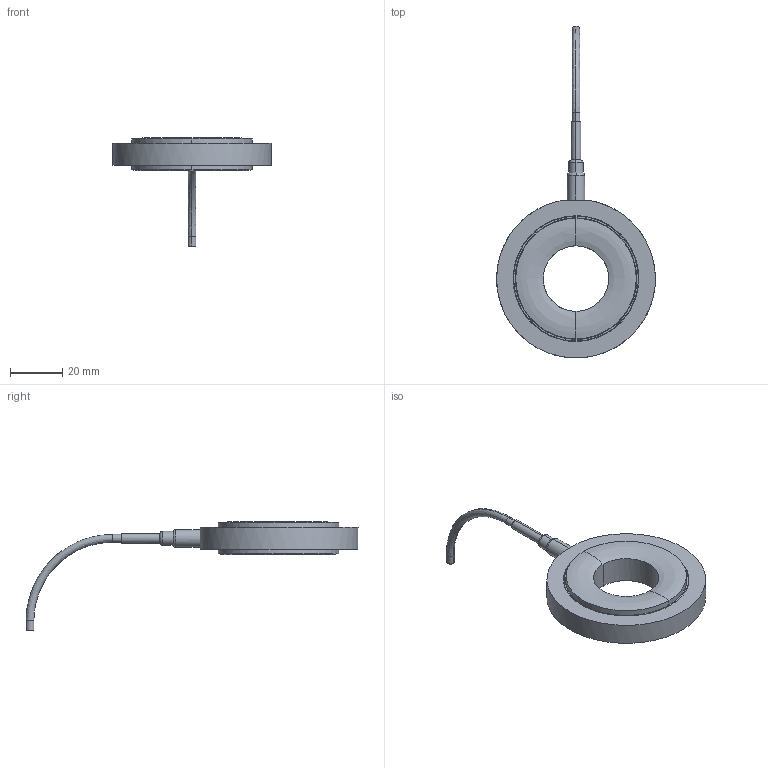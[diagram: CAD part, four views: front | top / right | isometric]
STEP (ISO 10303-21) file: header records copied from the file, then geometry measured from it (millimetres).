
FILE_DESCRIPTION (( 'STEP AP214' ), '1' );
FILE_NAME ('SM71-M24-400KN.stp', '2021-03-11T10:03:27', ( '' ), ( '' ), 'SwSTEP 2.0', 'SolidWorks 2019', '' );
FILE_SCHEMA (( 'AUTOMOTIVE_DESIGN' ));
Length unit declared in the file: millimetre
Products named in the file (2): SM71-M24-400KN
Bounding box: 60.6 x 126.73 x 41.25 mm (x, y, z)
Volume: 25038.6 mm3; surface area: 9054.3 mm2
Topology: 1 solids, 1 shells, 46 faces, 92 edges, 52 vertices
Faces by surface type: bspline 39, plane 7
Entity records: 4659 total; most frequent: CARTESIAN_POINT 3915, ORIENTED_EDGE 184, EDGE_CURVE 92, B_SPLINE_CURVE_WITH_KNOTS 64, EDGE_LOOP 52, VERTEX_POINT 52, DIRECTION 50, ADVANCED_FACE 46
